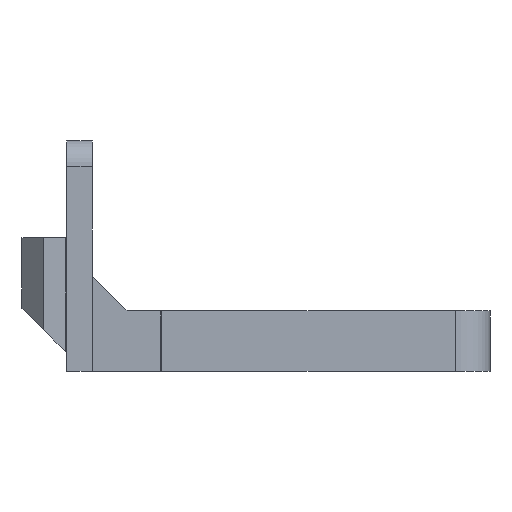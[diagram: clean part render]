
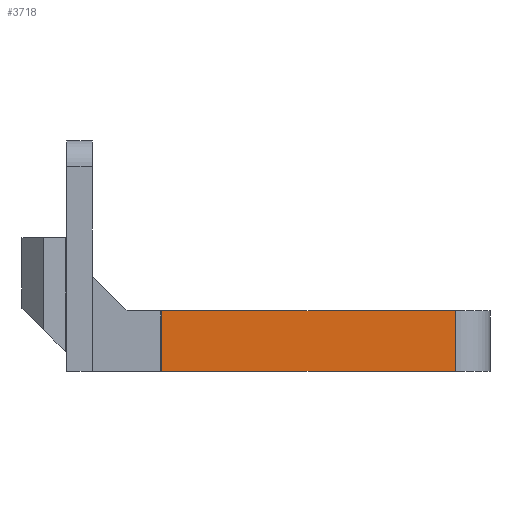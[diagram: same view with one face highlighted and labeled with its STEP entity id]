
A CAD part, front view. The second image highlights one B-rep face of the part: STEP entity #3718.
In plain terms, the highlighted planar face has unit normal (0, -1, 0).
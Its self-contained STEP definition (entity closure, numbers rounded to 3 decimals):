
#144=PLANE('',#4096);
#354=FACE_OUTER_BOUND('',#612,.T.);
#612=EDGE_LOOP('',(#3090,#3091,#3092,#3093));
#736=LINE('',#5555,#1114);
#930=LINE('',#6090,#1308);
#931=LINE('',#6093,#1309);
#932=LINE('',#6096,#1310);
#1114=VECTOR('',#4418,10.);
#1308=VECTOR('',#4982,10.);
#1309=VECTOR('',#4985,10.);
#1310=VECTOR('',#4990,10.);
#1675=VERTEX_POINT('',#5552);
#1676=VERTEX_POINT('',#5554);
#1832=VERTEX_POINT('',#6088);
#1833=VERTEX_POINT('',#6092);
#2003=EDGE_CURVE('',#1675,#1676,#736,.T.);
#2273=EDGE_CURVE('',#1832,#1675,#930,.T.);
#2274=EDGE_CURVE('',#1833,#1676,#931,.T.);
#2276=EDGE_CURVE('',#1832,#1833,#932,.F.);
#3090=ORIENTED_EDGE('',*,*,#2273,.F.);
#3091=ORIENTED_EDGE('',*,*,#2276,.T.);
#3092=ORIENTED_EDGE('',*,*,#2274,.T.);
#3093=ORIENTED_EDGE('',*,*,#2003,.F.);
#3718=ADVANCED_FACE('',(#354),#144,.T.);
#4096=AXIS2_PLACEMENT_3D('',#6095,#4988,#4989);
#4418=DIRECTION('',(-1.,0.,0.));
#4982=DIRECTION('',(0.,0.,-1.));
#4985=DIRECTION('',(0.,0.,-1.));
#4988=DIRECTION('center_axis',(0.,-1.,0.));
#4989=DIRECTION('ref_axis',(1.,0.,0.));
#4990=DIRECTION('',(1.,0.,0.));
#5552=CARTESIAN_POINT('',(141.15,-21.,-114.478));
#5554=CARTESIAN_POINT('',(107.15,-21.,-114.478));
#5555=CARTESIAN_POINT('',(141.15,-21.,-114.478));
#6088=CARTESIAN_POINT('',(141.15,-21.,-107.478));
#6090=CARTESIAN_POINT('',(141.15,-21.,-112.124));
#6092=CARTESIAN_POINT('',(107.15,-21.,-107.478));
#6093=CARTESIAN_POINT('',(107.15,-21.,-112.124));
#6095=CARTESIAN_POINT('Origin',(103.15,-21.,-112.124));
#6096=CARTESIAN_POINT('',(122.15,-21.,-107.478));
